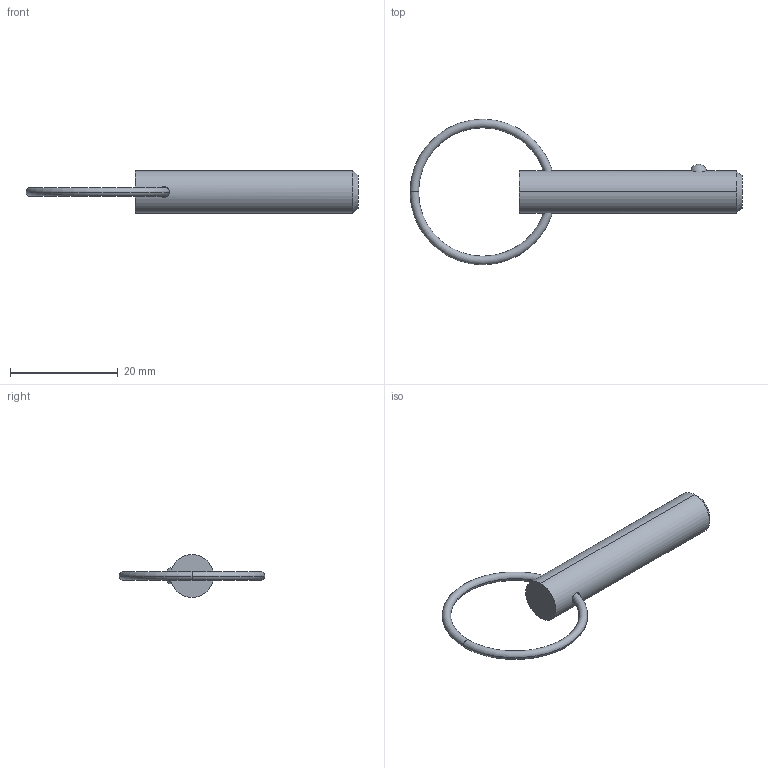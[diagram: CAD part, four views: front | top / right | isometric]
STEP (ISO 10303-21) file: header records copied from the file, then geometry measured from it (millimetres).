
FILE_DESCRIPTION (( 'STEP AP203' ), '1' );
FILE_NAME ('33012.W3110.step', '2024-11-01T14:08:00', ( '' ), ( '' ), 'SwSTEP 2.0', 'SolidWorks 2019', '' );
FILE_SCHEMA (( 'CONFIG_CONTROL_DESIGN' ));
Length unit declared in the file: millimetre
Products named in the file (3): Part2_33012.W3110; 33012.W3110; Part1_33012.W3110
Assembly tree (2 placements, depth 2):
  33012.W3110
    Part1_33012.W3110
    Part2_33012.W3110
Bounding box: 61.53 x 26.99 x 7.94 mm (x, y, z)
Volume: 2171.3 mm3; surface area: 1559.2 mm2
Topology: 2 solids, 2 shells, 16 faces, 31 edges, 18 vertices
Faces by surface type: torus 8, sphere 2, cone 2, cylinder 2, plane 2
Entity records: 829 total; most frequent: CARTESIAN_POINT 186, DIRECTION 88, ORIENTED_EDGE 62, AXIS2_PLACEMENT_3D 42, EDGE_CURVE 31, PERSON_AND_ORGANIZATION 26, CIRCLE 21, COORDINATED_UNIVERSAL_TIME_OFFSET 19
